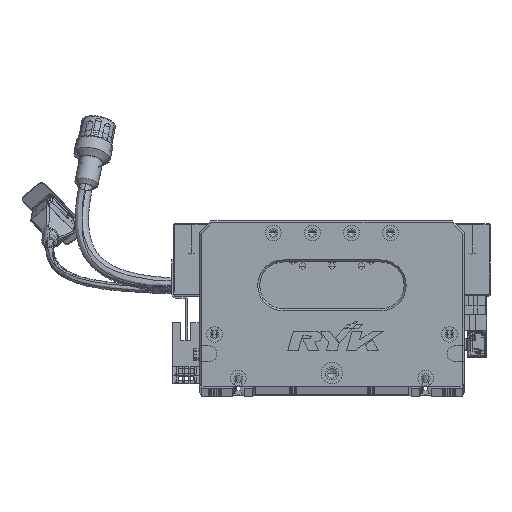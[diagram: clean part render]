
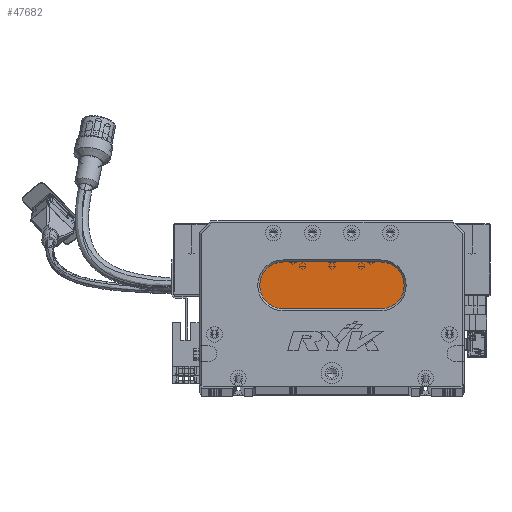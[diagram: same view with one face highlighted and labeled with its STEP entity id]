
A CAD part, top view. The second image highlights one B-rep face of the part: STEP entity #47682.
In plain terms, the highlighted planar face has unit normal (0, 0, 1) as drawn and (0, 0, -1) by its records, which use the part's own axes.
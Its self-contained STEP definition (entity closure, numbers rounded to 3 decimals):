
#950 = DIRECTION ( 'NONE',  ( 0., 0., -1. ) ) ;
#3773 = VERTEX_POINT ( 'NONE', #112433 ) ;
#7417 = VERTEX_POINT ( 'NONE', #47798 ) ;
#9455 = AXIS2_PLACEMENT_3D ( 'NONE', #14211, #34054, #44428 ) ;
#14211 = CARTESIAN_POINT ( 'NONE',  ( 93., 52., 13. ) ) ;
#15086 = VECTOR ( 'NONE', #38062, 1000. ) ;
#18199 = ORIENTED_EDGE ( 'NONE', *, *, #33569, .T. ) ;
#27047 = VECTOR ( 'NONE', #51234, 1000. ) ;
#27975 = AXIS2_PLACEMENT_3D ( 'NONE', #105004, #55287, #105870 ) ;
#33569 = EDGE_CURVE ( 'NONE', #76149, #84327, #116655, .T. ) ;
#33854 = EDGE_LOOP ( 'NONE', ( #107041, #83458, #18199, #103875, #41356 ) ) ;
#33920 = CARTESIAN_POINT ( 'NONE',  ( 93., 40., 13. ) ) ;
#34054 = DIRECTION ( 'NONE',  ( 0., 0., -1. ) ) ;
#34863 = CARTESIAN_POINT ( 'NONE',  ( 43., 40., 13. ) ) ;
#37566 = CARTESIAN_POINT ( 'NONE',  ( 31., 52., 13. ) ) ;
#38062 = DIRECTION ( 'NONE',  ( -1., 0., 0. ) ) ;
#38481 = CARTESIAN_POINT ( 'NONE',  ( 93., 40., 13. ) ) ;
#41356 = ORIENTED_EDGE ( 'NONE', *, *, #113289, .T. ) ;
#41913 = AXIS2_PLACEMENT_3D ( 'NONE', #94764, #106022, #95189 ) ;
#44428 = DIRECTION ( 'NONE',  ( -1., 0., 0. ) ) ;
#47682 = ADVANCED_FACE ( 'NONE', ( #121279 ), #58897, .T. ) ;
#47798 = CARTESIAN_POINT ( 'NONE',  ( 93., 64., 13. ) ) ;
#51234 = DIRECTION ( 'NONE',  ( 1., 0., 0. ) ) ;
#51657 = CARTESIAN_POINT ( 'NONE',  ( 93., 64., 13. ) ) ;
#53267 = AXIS2_PLACEMENT_3D ( 'NONE', #59316, #950, #99892 ) ;
#55287 = DIRECTION ( 'NONE',  ( 0., 0., -1. ) ) ;
#58897 = PLANE ( 'NONE',  #53267 ) ;
#59316 = CARTESIAN_POINT ( 'NONE',  ( 93., 52., 13. ) ) ;
#63071 = LINE ( 'NONE', #38481, #15086 ) ;
#71745 = VERTEX_POINT ( 'NONE', #33920 ) ;
#76149 = VERTEX_POINT ( 'NONE', #34863 ) ;
#83458 = ORIENTED_EDGE ( 'NONE', *, *, #91548, .T. ) ;
#84327 = VERTEX_POINT ( 'NONE', #37566 ) ;
#87392 = CIRCLE ( 'NONE', #9455, 12. ) ;
#90046 = EDGE_CURVE ( 'NONE', #84327, #3773, #115907, .T. ) ;
#91548 = EDGE_CURVE ( 'NONE', #71745, #76149, #63071, .T. ) ;
#93510 = LINE ( 'NONE', #51657, #27047 ) ;
#94764 = CARTESIAN_POINT ( 'NONE',  ( 43., 52., 13. ) ) ;
#95189 = DIRECTION ( 'NONE',  ( -1., 0., 0. ) ) ;
#99892 = DIRECTION ( 'NONE',  ( -1., 0., 0. ) ) ;
#103875 = ORIENTED_EDGE ( 'NONE', *, *, #90046, .T. ) ;
#105004 = CARTESIAN_POINT ( 'NONE',  ( 43., 52., 13. ) ) ;
#105870 = DIRECTION ( 'NONE',  ( -1., 0., 0. ) ) ;
#106022 = DIRECTION ( 'NONE',  ( 0., 0., -1. ) ) ;
#107041 = ORIENTED_EDGE ( 'NONE', *, *, #126730, .T. ) ;
#112433 = CARTESIAN_POINT ( 'NONE',  ( 43., 64., 13. ) ) ;
#113289 = EDGE_CURVE ( 'NONE', #3773, #7417, #93510, .T. ) ;
#115907 = CIRCLE ( 'NONE', #41913, 12. ) ;
#116655 = CIRCLE ( 'NONE', #27975, 12. ) ;
#121279 = FACE_OUTER_BOUND ( 'NONE', #33854, .T. ) ;
#126730 = EDGE_CURVE ( 'NONE', #7417, #71745, #87392, .T. ) ;
